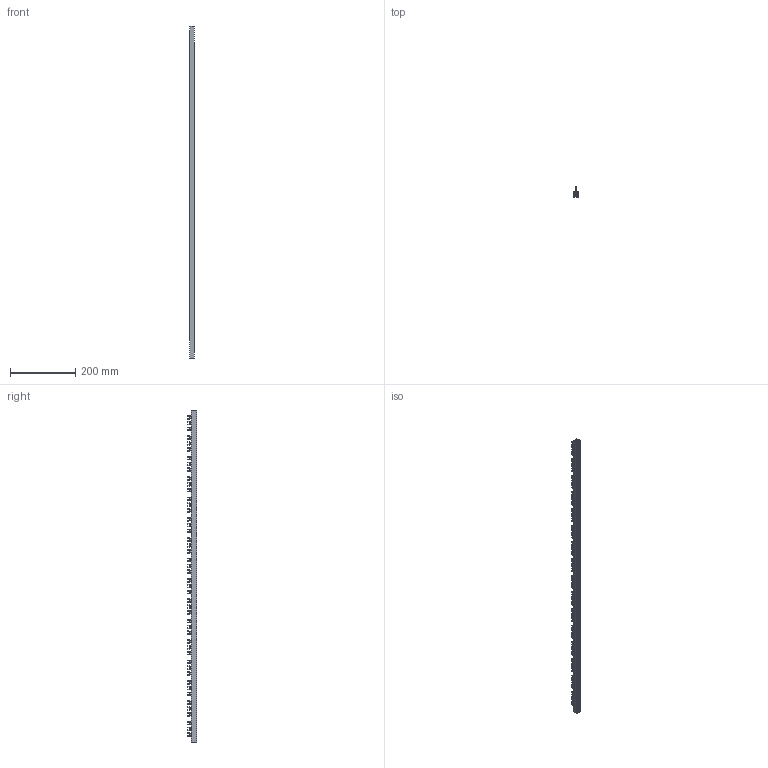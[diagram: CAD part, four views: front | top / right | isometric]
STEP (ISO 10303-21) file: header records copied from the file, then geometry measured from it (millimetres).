
FILE_DESCRIPTION (( 'STEP AP214' ), '1' );
FILE_NAME ('G3L_plus_9-1000-16C.step', '2011-08-05T07:30:37', ( 'Radek Veselý' ), ( 'Siemens and Partners' ), 'SwSTEP 2.0', 'SolidWorks 2006303', '' );
FILE_SCHEMA (( 'AUTOMOTIVE_DESIGN' ));
Length unit declared in the file: millimetre
Products named in the file (1): G3L_plus_9-1000-16C
Bounding box: 14.9 x 30 x 1016 mm (x, y, z)
Volume: 147288.5 mm3; surface area: 272218.6 mm2
Topology: 4 solids, 4 shells, 1217 faces, 3115 edges, 1906 vertices
Faces by surface type: cylinder 665, plane 552
Entity records: 49380 total; most frequent: CARTESIAN_POINT 7391, ORIENTED_EDGE 6230, DIRECTION 5729, EDGE_CURVE 3115, VECTOR 2169, LINE 2169, VERTEX_POINT 1906, AXIS2_PLACEMENT_3D 1780
